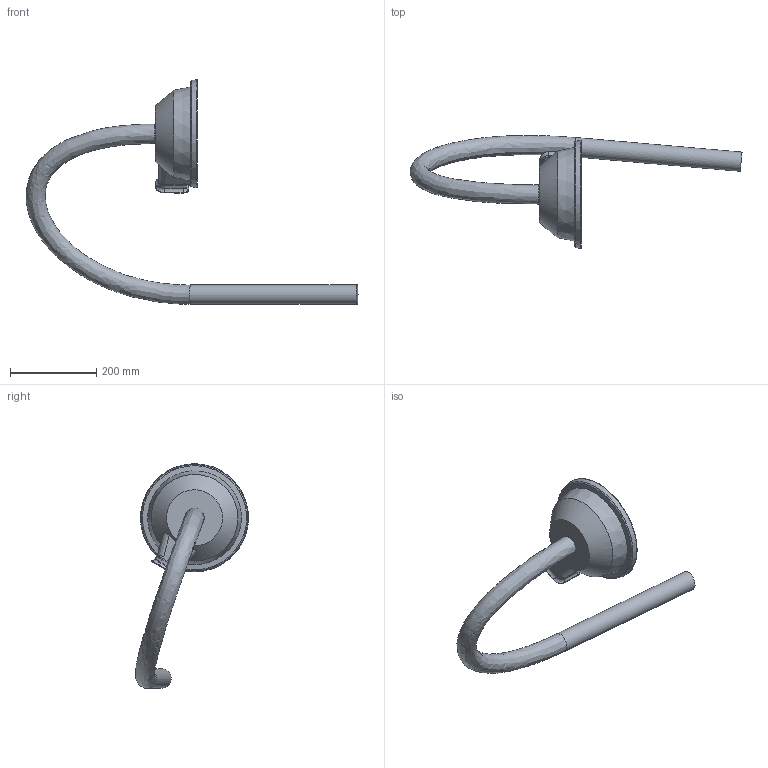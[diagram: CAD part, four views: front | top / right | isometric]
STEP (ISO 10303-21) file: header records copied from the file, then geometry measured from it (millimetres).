
FILE_DESCRIPTION (( 'STEP AP203' ), '1' );
FILE_NAME ('IRB6730S-ALL-OC_00_LINK03b_CABLE.step', '2025-12-19T13:30:33', ( '' ), ( '' ), 'SwSTEP 2.0', 'SolidWorks 2024', '' );
FILE_SCHEMA (( 'CONFIG_CONTROL_DESIGN' ));
Length unit declared in the file: millimetre
Products named in the file (1): IRB6730S-ALL-OC_00_LINK03b_CABLE
Bounding box: 771.14 x 263.03 x 521.81 mm (x, y, z)
Volume: 5150104.1 mm3; surface area: 322362.1 mm2
Topology: 1 solids, 1 shells, 91 faces, 233 edges, 145 vertices
Faces by surface type: bspline 32, cylinder 20, plane 18, torus 13, cone 8
Full cylindrical faces by diameter (mm): 45 x2
Entity records: 5365 total; most frequent: CARTESIAN_POINT 3492, ORIENTED_EDGE 436, DIRECTION 279, EDGE_CURVE 218, VERTEX_POINT 139, AXIS2_PLACEMENT_3D 115, EDGE_LOOP 99, FACE_OUTER_BOUND 96
